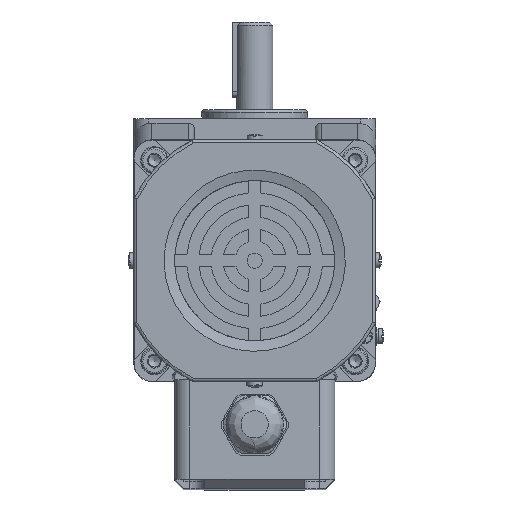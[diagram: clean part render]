
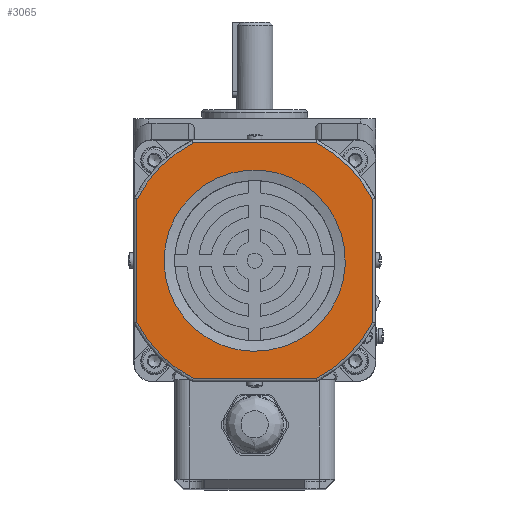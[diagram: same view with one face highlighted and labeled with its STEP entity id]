
A CAD part, left-side view. The second image highlights one B-rep face of the part: STEP entity #3065.
In plain terms, the highlighted planar face has unit normal (-1, 0, 0).
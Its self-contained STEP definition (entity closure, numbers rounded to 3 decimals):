
#1031=PLANE('',#20689);
#3065=ADVANCED_FACE('',(#3913,#3914),#1031,.F.);
#3913=FACE_BOUND('',#5250,.T.);
#3914=FACE_BOUND('',#5251,.T.);
#5250=EDGE_LOOP('',(#11273,#11274,#11275,#11276,#11277,#11278,#11279,#11280));
#5251=EDGE_LOOP('',(#11281));
#11273=ORIENTED_EDGE('',*,*,#15703,.T.);
#11274=ORIENTED_EDGE('',*,*,#15684,.T.);
#11275=ORIENTED_EDGE('',*,*,#15689,.T.);
#11276=ORIENTED_EDGE('',*,*,#15693,.T.);
#11277=ORIENTED_EDGE('',*,*,#15697,.T.);
#11278=ORIENTED_EDGE('',*,*,#15701,.T.);
#11279=ORIENTED_EDGE('',*,*,#15706,.T.);
#11280=ORIENTED_EDGE('',*,*,#15707,.T.);
#11281=ORIENTED_EDGE('',*,*,#15990,.T.);
#13182=VERTEX_POINT('',#35363);
#13183=VERTEX_POINT('',#35365);
#13185=VERTEX_POINT('',#35383);
#13187=VERTEX_POINT('',#35396);
#13189=VERTEX_POINT('',#35409);
#13191=VERTEX_POINT('',#35422);
#13192=VERTEX_POINT('',#35431);
#13193=VERTEX_POINT('',#35442);
#13368=VERTEX_POINT('',#39904);
#15684=EDGE_CURVE('',#13183,#13182,#18913,.T.);
#15689=EDGE_CURVE('',#13182,#13185,#17052,.T.);
#15693=EDGE_CURVE('',#13185,#13187,#18915,.T.);
#15697=EDGE_CURVE('',#13187,#13189,#17056,.T.);
#15701=EDGE_CURVE('',#13189,#13191,#18917,.T.);
#15703=EDGE_CURVE('',#13192,#13183,#17059,.T.);
#15706=EDGE_CURVE('',#13191,#13193,#17060,.T.);
#15707=EDGE_CURVE('',#13193,#13192,#18919,.T.);
#15990=EDGE_CURVE('',#13368,#13368,#18986,.T.);
#17052=LINE('',#35384,#18070);
#17056=LINE('',#35410,#18074);
#17059=LINE('',#35432,#18077);
#17060=LINE('',#35443,#18078);
#18070=VECTOR('',#24457,1.);
#18074=VECTOR('',#24473,1.);
#18077=VECTOR('',#24484,1.);
#18078=VECTOR('',#24491,1.);
#18913=CIRCLE('',#20493,44.);
#18915=CIRCLE('',#20499,44.);
#18917=CIRCLE('',#20505,44.);
#18919=CIRCLE('',#20511,44.);
#18986=CIRCLE('',#20687,30.);
#20493=AXIS2_PLACEMENT_3D('',#35364,#24448,#24449);
#20499=AXIS2_PLACEMENT_3D('',#35397,#24464,#24465);
#20505=AXIS2_PLACEMENT_3D('',#35423,#24480,#24481);
#20511=AXIS2_PLACEMENT_3D('',#35445,#24494,#24495);
#20687=AXIS2_PLACEMENT_3D('',#39903,#24942,#24943);
#20689=AXIS2_PLACEMENT_3D('',#39906,#24946,#24947);
#24448=DIRECTION('',(-1.,0.,0.));
#24449=DIRECTION('',(0.,0.,-1.));
#24457=DIRECTION('',(0.,0.,-1.));
#24464=DIRECTION('',(-1.,0.,0.));
#24465=DIRECTION('',(0.,0.,-1.));
#24473=DIRECTION('',(0.,-1.,0.));
#24480=DIRECTION('',(-1.,0.,0.));
#24481=DIRECTION('',(0.,0.,-1.));
#24484=DIRECTION('',(0.,1.,0.));
#24491=DIRECTION('',(0.,0.,1.));
#24494=DIRECTION('',(-1.,0.,0.));
#24495=DIRECTION('',(0.,0.,-1.));
#24942=DIRECTION('',(1.,0.,0.));
#24943=DIRECTION('',(0.,1.,0.));
#24946=DIRECTION('',(1.,0.,0.));
#24947=DIRECTION('',(0.,0.,-1.));
#35363=CARTESIAN_POINT('',(-102.,79.,60.372));
#35364=CARTESIAN_POINT('',(-102.,40.,40.));
#35365=CARTESIAN_POINT('',(-102.,60.372,79.));
#35383=CARTESIAN_POINT('',(-102.,79.,19.628));
#35384=CARTESIAN_POINT('',(-102.,79.,19.384));
#35396=CARTESIAN_POINT('',(-102.,60.372,1.));
#35397=CARTESIAN_POINT('',(-102.,40.,40.));
#35409=CARTESIAN_POINT('',(-102.,19.628,1.));
#35410=CARTESIAN_POINT('',(-102.,19.384,1.));
#35422=CARTESIAN_POINT('',(-102.,1.,19.628));
#35423=CARTESIAN_POINT('',(-102.,40.,40.));
#35431=CARTESIAN_POINT('',(-102.,19.628,79.));
#35432=CARTESIAN_POINT('',(-102.,60.616,79.));
#35442=CARTESIAN_POINT('',(-102.,1.,60.372));
#35443=CARTESIAN_POINT('',(-102.,1.,60.616));
#35445=CARTESIAN_POINT('',(-102.,40.,40.));
#39903=CARTESIAN_POINT('',(-102.,40.,40.));
#39904=CARTESIAN_POINT('',(-102.,70.,40.));
#39906=CARTESIAN_POINT('',(-102.,40.,40.));
